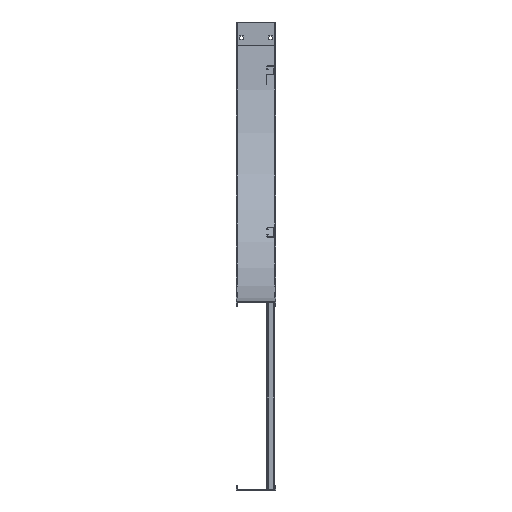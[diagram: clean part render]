
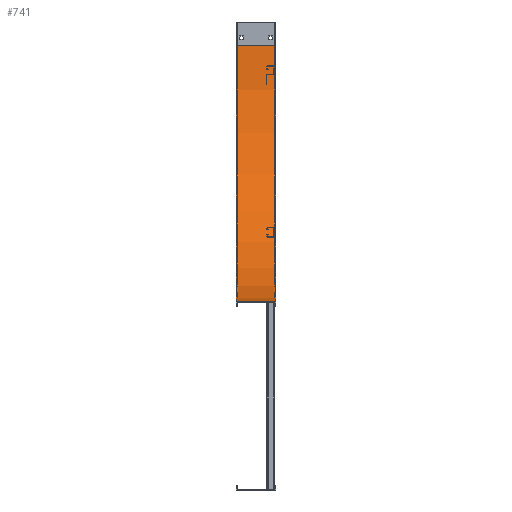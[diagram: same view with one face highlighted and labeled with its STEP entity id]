
A CAD part, left-side view. The second image highlights one B-rep face of the part: STEP entity #741.
In plain terms, the highlighted cylindrical face has radius 838.2 mm (diameter 1676.4 mm), a partial arc.
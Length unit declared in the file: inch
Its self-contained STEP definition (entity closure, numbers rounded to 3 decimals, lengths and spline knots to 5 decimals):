
#156=CARTESIAN_POINT('',(0.,-33.,3.));
#157=DIRECTION('',(1.,0.,0.));
#158=DIRECTION('',(0.,1.,0.));
#159=AXIS2_PLACEMENT_3D('',#156,#157,#158);
#165=DIRECTION('',(1.,0.,0.));
#166=VECTOR('',#165,5.08);
#167=CARTESIAN_POINT('',(-5.08,0.,3.));
#168=LINE('',#167,#166);
#169=CARTESIAN_POINT('',(-5.08,-33.,3.));
#170=DIRECTION('',(1.,0.,0.));
#171=DIRECTION('',(0.,1.,0.));
#172=AXIS2_PLACEMENT_3D('',#169,#170,#171);
#174=DIRECTION('',(1.,0.,0.));
#175=VECTOR('',#174,5.08);
#176=CARTESIAN_POINT('',(-5.08,-33.,36.));
#177=LINE('',#176,#175);
#409=CARTESIAN_POINT('',(-5.08,0.,3.));
#410=CARTESIAN_POINT('',(0.,0.,3.));
#411=VERTEX_POINT('',#409);
#412=VERTEX_POINT('',#410);
#425=CARTESIAN_POINT('',(-5.08,-33.,36.));
#426=CARTESIAN_POINT('',(0.,-33.,36.));
#427=VERTEX_POINT('',#425);
#428=VERTEX_POINT('',#426);
#729=CARTESIAN_POINT('',(-1.,-33.,3.));
#730=DIRECTION('',(1.,0.,0.));
#731=DIRECTION('',(0.,-1.,0.));
#732=AXIS2_PLACEMENT_3D('',#729,#730,#731);
#733=CYLINDRICAL_SURFACE('',#732,33.);
#734=ORIENTED_EDGE('',*,*,#553,.F.);
#735=ORIENTED_EDGE('',*,*,#596,.T.);
#737=ORIENTED_EDGE('',*,*,#736,.T.);
#738=ORIENTED_EDGE('',*,*,#715,.F.);
#739=EDGE_LOOP('',(#734,#735,#737,#738));
#740=FACE_OUTER_BOUND('',#739,.F.);
#741=ADVANCED_FACE('',(#740),#733,.F.);
#160=CIRCLE('',#159,33.);
#173=CIRCLE('',#172,33.);
#553=EDGE_CURVE('',#411,#412,#168,.T.);
#596=EDGE_CURVE('',#411,#427,#173,.T.);
#715=EDGE_CURVE('',#412,#428,#160,.T.);
#736=EDGE_CURVE('',#427,#428,#177,.T.);
